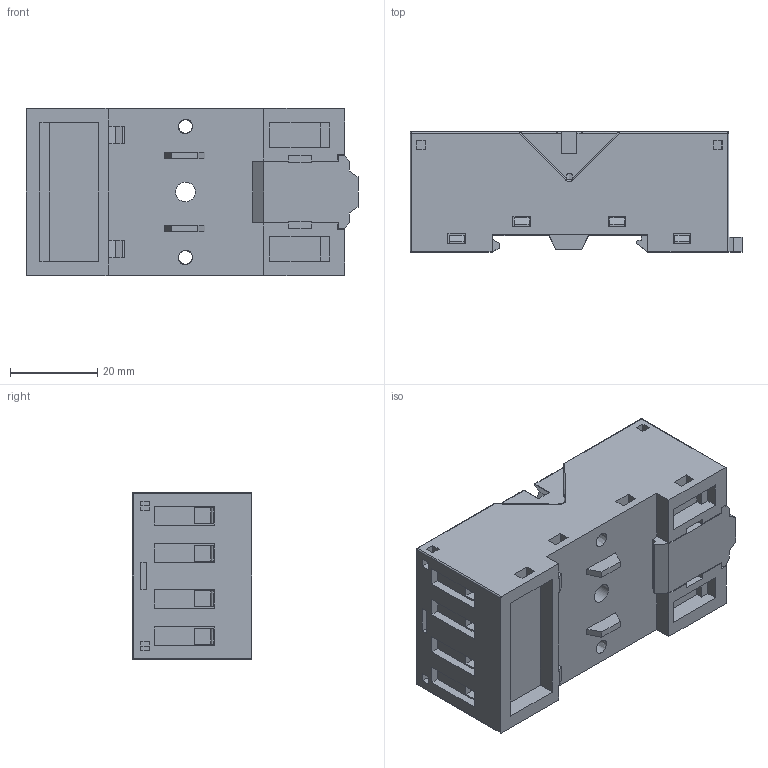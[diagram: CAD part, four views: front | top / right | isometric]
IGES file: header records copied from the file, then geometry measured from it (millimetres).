
Global section: file name: VG-8T; native system: Autodesk Inventor 2020; preprocessor: unknown; organization: Mors Smitt; date: 20210603.143319; units: millimetre
Bounding box: 76.1 x 27.5 x 38.3 mm (x, y, z)
Volume: 61918.8 mm3; surface area: 21671.5 mm2
Topology: 10 solids, 10 shells, 1358 faces, 3441 edges, 2086 vertices
Faces by surface type: bspline 1358
